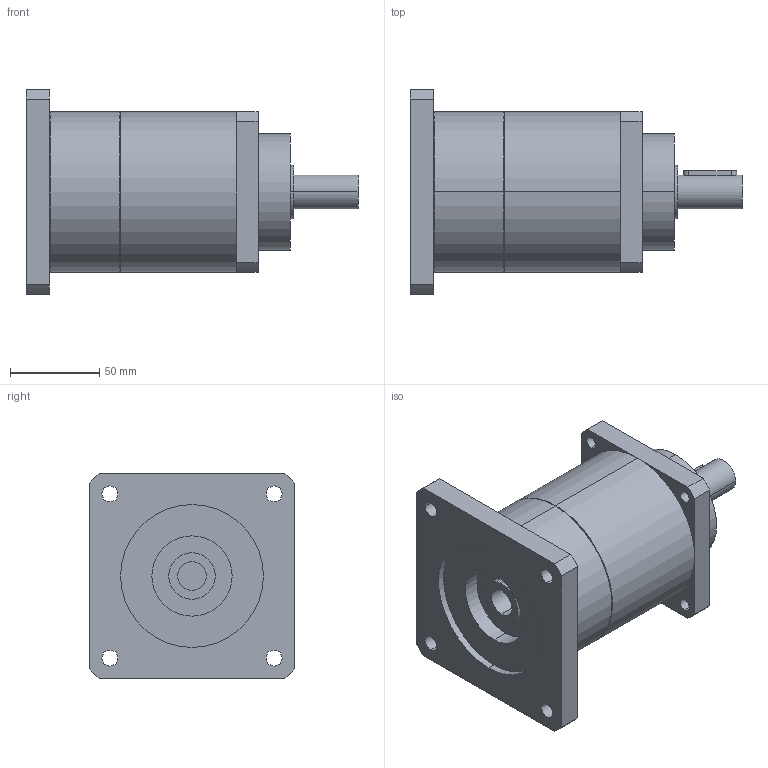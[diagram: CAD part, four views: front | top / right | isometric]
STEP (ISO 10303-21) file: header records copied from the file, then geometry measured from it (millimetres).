
FILE_DESCRIPTION(('CoCreate Modeling STEP Export'),'2;1');
FILE_NAME('GPT90_ig-9-12-16-20-25-28-35-40-50-70-100_19_B5T_16_P30.stp','2015-02-04T11:32:18',(''),(''),'CoCreate Modeling STEP processor for AP214 (Solid Model)','CoCreate Modeling 16.00C 25-Feb-2009 (C) Parametric Technology GmbH','');
FILE_SCHEMA(('AUTOMOTIVE_DESIGN { 1 0 10303 214 1 1 1 1 }'));
Length unit declared in the file: millimetre
Products named in the file (2): GPT90_ig-9-12-16-20-25-28-35-40-50-70-100_19_B5T_16_P30
Assembly tree (1 placements, depth 2):
  GPT90_ig-9-12-16-20-25-28-35-40-50-70-100_19_B5T_16_P30
    GPT90_ig-9-12-16-20-25-28-35-40-50-70-100_19_B5T_16_P30
Bounding box: 186 x 115 x 115 mm (x, y, z)
Volume: 961950.9 mm3; surface area: 82263.9 mm2
Topology: 1 solids, 1 shells, 77 faces, 206 edges, 141 vertices
Faces by surface type: cylinder 46, plane 27, cone 4
Entity records: 2596 total; most frequent: CARTESIAN_POINT 742, ORIENTED_EDGE 412, DIRECTION 324, EDGE_CURVE 206, VERTEX_POINT 141, AXIS2_PLACEMENT_3D 120, EDGE_LOOP 103, VECTOR 84
